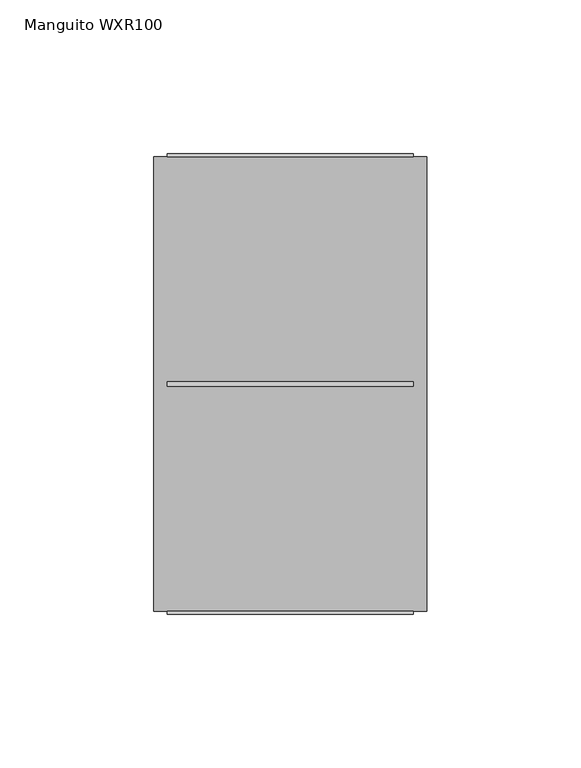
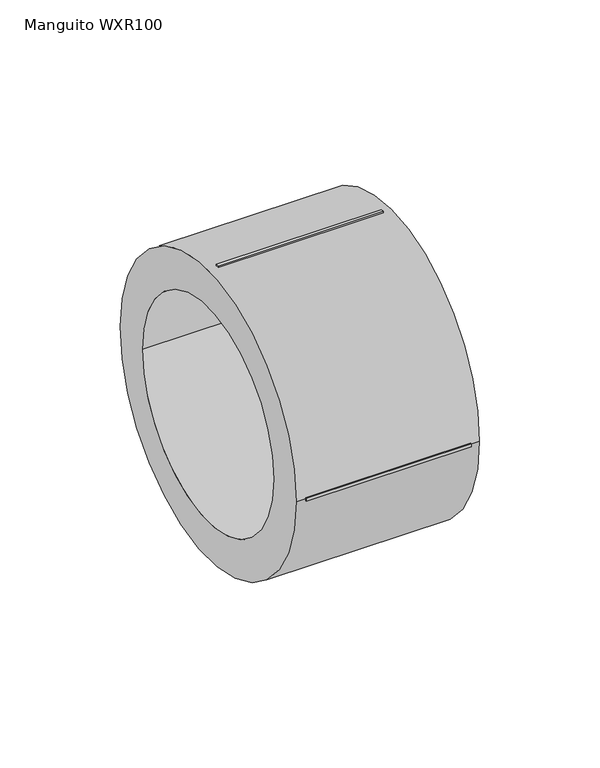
"""IFC4 building model written with IfcOpenShell, lengths in millimetres: pipe fitting geometry, EGB_VASEN_ PPR_Manguito WXR100 : Manguito WXR100."""

from ifc_helpers import new_model, si_unit, point, frame, origin, origin_2d, place, context, project, spatial, polyline, circle_curve, trimmed, segment, composite_curve, outline, extrude, source, transform, mapped, element, save


def manguito_wxr100_614b7fc8(model_context):
    return source(origin(), model_context, "Body", "SweptSolid", [
        extrude(outline(composite_curve([segment(trimmed(circle_curve(origin_2d(), 74.0), [point((-74.0, 0.0))], [point((74.0, 0.0))], False, "CARTESIAN"), True, "CONTINUOUS"), segment(trimmed(circle_curve(origin_2d(), 74.0), [point((74.0, 0.0))], [point((-74.0, 0.0))], False, "CARTESIAN"), True, "CONTINUOUS")], self_intersect=False), holes=[composite_curve([segment(trimmed(circle_curve(origin_2d(), 55.0), [point((-55.0, 0.0))], [point((55.0, 0.0))], True, "CARTESIAN"), True, "CONTINUOUS"), segment(trimmed(circle_curve(origin_2d(), 55.0), [point((55.0, 0.0))], [point((-55.0, 0.0))], True, "CARTESIAN"), True, "CONTINUOUS")], self_intersect=False)]), frame((-44.5, 0.0, 0.0), z_axis=(1.0, 0.0, 0.0), x_axis=(0.0, 1.0, 0.0)), (0.0, 0.0, 1.0), 89.0),
        extrude(outline(polyline([(40.05, 0.75), (40.05, -0.75), (-40.05, -0.75), (-40.05, 0.75), (40.05, 0.75)])), frame((0.0, 0.0, 73.0), z_axis=(0.0, 0.0, 1.0), x_axis=(1.0, 0.0, 0.0)), (0.0, 0.0, 1.0), 2.0),
        extrude(outline(polyline([(40.05, 0.75), (40.05, -0.75), (-40.05, -0.75), (-40.05, 0.75), (40.05, 0.75)])), frame((0.0, 0.0, -75.0), z_axis=(0.0, 0.0, 1.0), x_axis=(1.0, 0.0, 0.0)), (0.0, 0.0, 1.0), 2.0),
        extrude(outline(polyline([(40.05, 75.0), (40.05, 73.0), (-40.05, 73.0), (-40.05, 75.0), (40.05, 75.0)])), frame((0.0, 0.0, -0.75), z_axis=(0.0, 0.0, 1.0), x_axis=(1.0, 0.0, 0.0)), (0.0, 0.0, 1.0), 1.5),
        extrude(outline(polyline([(40.05, -73.0), (40.05, -75.0), (-40.05, -75.0), (-40.05, -73.0), (40.05, -73.0)])), frame((0.0, 0.0, -0.75), z_axis=(0.0, 0.0, 1.0), x_axis=(1.0, 0.0, 0.0)), (0.0, 0.0, 1.0), 1.5),
    ])


if __name__ == "__main__":
    model = new_model("IFC4")
    model_context = context("Model", 3, world=origin())
    ifc_project = project(units=[si_unit("LENGTHUNIT", "METRE", prefix="MILLI")], contexts=[model_context])
    site = spatial("IfcSite", under=ifc_project)
    building = spatial("IfcBuilding", under=site)
    placement = place(None, origin())
    manguito_wxr100_shape = manguito_wxr100_614b7fc8(model_context)
    element("IfcPipeFitting", 1, ObjectType="EGB_VASEN_ PPR_Manguito WXR100 : Manguito WXR100", at=placement, inside=building, context=model_context, shape_type="MappedRepresentation", body=[
        mapped(manguito_wxr100_shape, transform((0.0, 0.0, 0.0), x_axis=(1.0, 0.0, 0.0), y_axis=(0.0, 1.0, 0.0), z_axis=(0.0, 0.0, 1.0))),
    ])
    save(model, "model.ifc")
